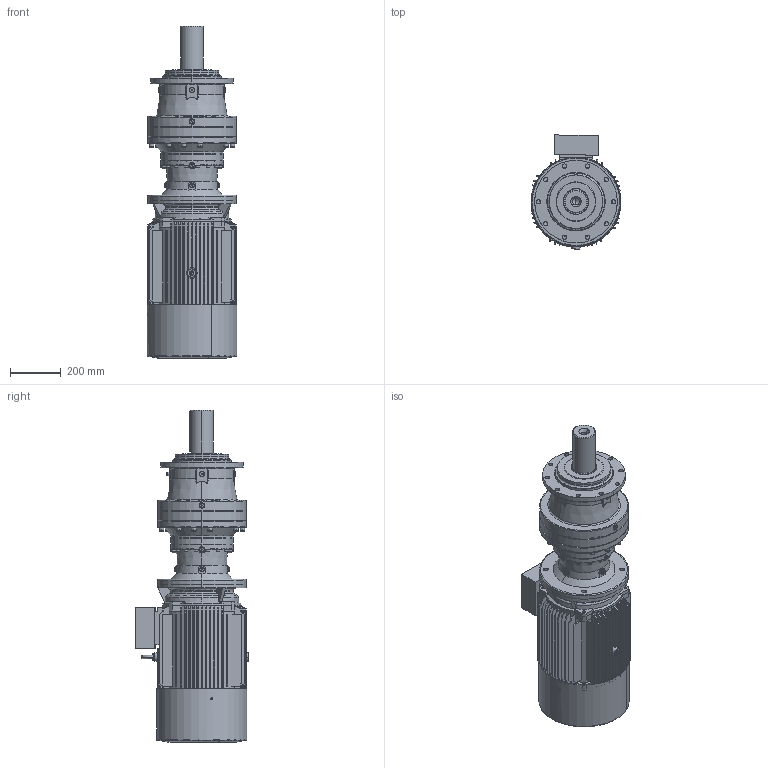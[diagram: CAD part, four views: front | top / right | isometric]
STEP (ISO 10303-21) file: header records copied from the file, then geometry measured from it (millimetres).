
FILE_DESCRIPTION (( 'STEP AP203' ), '1' );
FILE_NAME ('PVL-2302L-HS180L-4.STEP', '2019-05-27T09:47:32', ( '' ), ( '' ), 'SwSTEP 2.0', 'SolidWorks 2012', '' );
FILE_SCHEMA (( 'CONFIG_CONTROL_DESIGN' ));
Length unit declared in the file: millimetre
Products named in the file (15): EK2302L_Varsayìlan; ML31A_Varsayìlan; 15180B5_Varsayìlan; P23_Varsayìlan; M3-180L-FF-B5; PVL-2302L-HS180L-4; M3-HS180L-FF-B5; Y2-180C++A+¦-¯ª¦+¦_-++ñ; Y2-180-4.6.8-ª+---®+_-++ñ; Y2-180-4.6.8+ª-¯ª­-È®+_-++ñ; Y2-180+¦i-_-++ñ; Y2-180LB5+À+¿_-++ñ; Eyebolts GB_GB_FASTENER_SCREWS_FRS M12; PNL_2302L_0_0_A18_B5_ML31A_FL7A_0_0_0_0_0_0_0_0_0_0_0_M1; FL7A_Varsayìlan
Assembly tree (14 placements, depth 4):
  PVL-2302L-HS180L-4
    PNL_2302L_0_0_A18_B5_ML31A_FL7A_0_0_0_0_0_0_0_0_0_0_0_M1
      P23_Varsayìlan
      15180B5_Varsayìlan
      ML31A_Varsayìlan
      EK2302L_Varsayìlan
      FL7A_Varsayìlan
    M3-HS180L-FF-B5
      M3-180L-FF-B5
        Eyebolts GB_GB_FASTENER_SCREWS_FRS M12
        Y2-180LB5+À+¿_-++ñ
        Y2-180+¦i-_-++ñ
        Y2-180-4.6.8-ª+---®+_-++ñ
        Y2-180C++A+¦-¯ª¦+¦_-++ñ
        Y2-180-4.6.8+ª-¯ª­-È®+_-++ñ
Bounding box: 354.06 x 448.7 x 1307 mm (x, y, z)
Volume: 40993664.9 mm3; surface area: 4279426.6 mm2
Topology: 16 solids, 16 shells, 3547 faces, 8960 edges, 5513 vertices
Faces by surface type: plane 1119, cylinder 1100, cone 884, bspline 412, torus 32
Entity records: 129074 total; most frequent: CARTESIAN_POINT 44359, ORIENTED_EDGE 17724, DIRECTION 17465, EDGE_CURVE 8862, AXIS2_PLACEMENT_3D 6892, VERTEX_POINT 5513, EDGE_LOOP 3841, CIRCLE 3737
